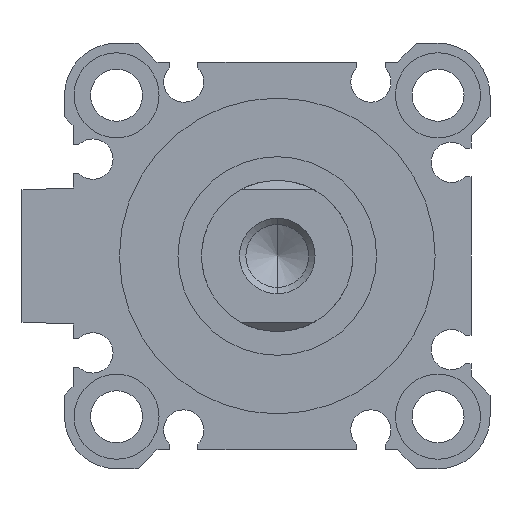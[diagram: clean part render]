
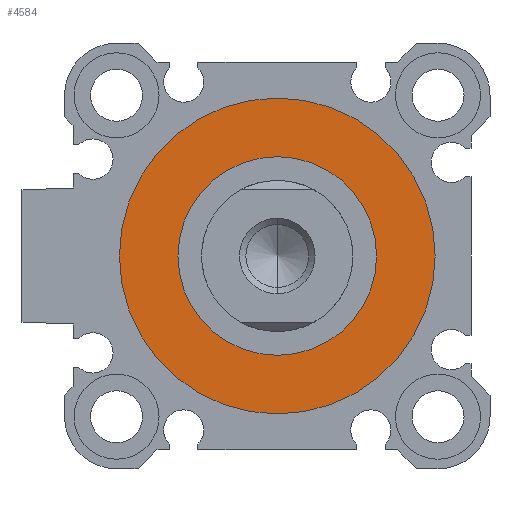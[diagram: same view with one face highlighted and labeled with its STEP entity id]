
A CAD part, left-side view. The second image highlights one B-rep face of the part: STEP entity #4584.
In plain terms, the highlighted planar face has unit normal (-1, 0, 0).
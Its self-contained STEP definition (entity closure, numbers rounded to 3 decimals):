
#256 = ORIENTED_EDGE ( 'NONE', *, *, #3585, .T. ) ;
#363 = DIRECTION ( 'NONE',  ( 0., 0., -1. ) ) ;
#405 = CARTESIAN_POINT ( 'NONE',  ( 2.1, 0., 0. ) ) ;
#679 = CARTESIAN_POINT ( 'NONE',  ( 2.1, 0., 0. ) ) ;
#703 = PLANE ( 'NONE',  #2841 ) ;
#733 = ORIENTED_EDGE ( 'NONE', *, *, #2109, .T. ) ;
#743 = CARTESIAN_POINT ( 'NONE',  ( 2.1, 0., 0. ) ) ;
#934 = DIRECTION ( 'NONE',  ( 0., 0., -1. ) ) ;
#1037 = DIRECTION ( 'NONE',  ( 0., 1., 0. ) ) ;
#1151 = VERTEX_POINT ( 'NONE', #5012 ) ;
#1558 = ORIENTED_EDGE ( 'NONE', *, *, #4417, .F. ) ;
#1637 = EDGE_LOOP ( 'NONE', ( #733, #256 ) ) ;
#1845 = FACE_OUTER_BOUND ( 'NONE', #2990, .T. ) ;
#1925 = AXIS2_PLACEMENT_3D ( 'NONE', #3374, #3666, #2969 ) ;
#1946 = CIRCLE ( 'NONE', #3245, 16.7 ) ;
#2109 = EDGE_CURVE ( 'NONE', #3479, #2742, #3300, .T. ) ;
#2173 = FACE_BOUND ( 'NONE', #1637, .T. ) ;
#2206 = VERTEX_POINT ( 'NONE', #2308 ) ;
#2284 = DIRECTION ( 'NONE',  ( 1., 0., 0. ) ) ;
#2308 = CARTESIAN_POINT ( 'NONE',  ( 2.1, 0., -16.7 ) ) ;
#2390 = ORIENTED_EDGE ( 'NONE', *, *, #4803, .F. ) ;
#2741 = AXIS2_PLACEMENT_3D ( 'NONE', #3170, #4390, #934 ) ;
#2742 = VERTEX_POINT ( 'NONE', #4691 ) ;
#2841 = AXIS2_PLACEMENT_3D ( 'NONE', #679, #4513, #1037 ) ;
#2900 = CIRCLE ( 'NONE', #2741, 10.5 ) ;
#2969 = DIRECTION ( 'NONE',  ( 0., 0., -1. ) ) ;
#2990 = EDGE_LOOP ( 'NONE', ( #2390, #1558 ) ) ;
#3118 = CARTESIAN_POINT ( 'NONE',  ( 2.1, 0., 10.5 ) ) ;
#3170 = CARTESIAN_POINT ( 'NONE',  ( 2.1, 0., 0. ) ) ;
#3245 = AXIS2_PLACEMENT_3D ( 'NONE', #405, #5037, #4622 ) ;
#3300 = CIRCLE ( 'NONE', #1925, 10.5 ) ;
#3374 = CARTESIAN_POINT ( 'NONE',  ( 2.1, 0., 0. ) ) ;
#3479 = VERTEX_POINT ( 'NONE', #3118 ) ;
#3585 = EDGE_CURVE ( 'NONE', #2742, #3479, #2900, .T. ) ;
#3666 = DIRECTION ( 'NONE',  ( 1., 0., 0. ) ) ;
#4390 = DIRECTION ( 'NONE',  ( 1., 0., 0. ) ) ;
#4417 = EDGE_CURVE ( 'NONE', #2206, #1151, #4438, .T. ) ;
#4438 = CIRCLE ( 'NONE', #4772, 16.7 ) ;
#4513 = DIRECTION ( 'NONE',  ( 1., 0., 0. ) ) ;
#4584 = ADVANCED_FACE ( 'NONE', ( #1845, #2173 ), #703, .F. ) ;
#4622 = DIRECTION ( 'NONE',  ( 0., 0., -1. ) ) ;
#4691 = CARTESIAN_POINT ( 'NONE',  ( 2.1, 0., -10.5 ) ) ;
#4772 = AXIS2_PLACEMENT_3D ( 'NONE', #743, #2284, #363 ) ;
#4803 = EDGE_CURVE ( 'NONE', #1151, #2206, #1946, .T. ) ;
#5012 = CARTESIAN_POINT ( 'NONE',  ( 2.1, 0., 16.7 ) ) ;
#5037 = DIRECTION ( 'NONE',  ( 1., 0., 0. ) ) ;
